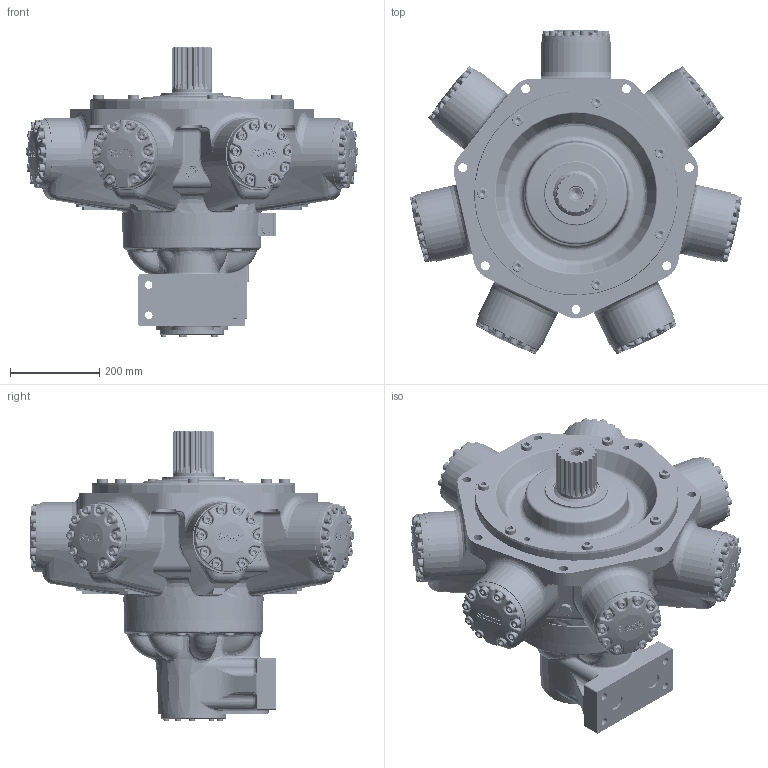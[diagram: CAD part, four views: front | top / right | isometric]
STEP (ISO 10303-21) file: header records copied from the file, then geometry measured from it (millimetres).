
FILE_DESCRIPTION(/* description */ (''),/* implementation_level */ '2;1');
FILE_NAME(/* name */ 'HMC325_Z4_SM4_CS.stp',/* time_stamp */ '2025-06-12T16:29:10+01:00',/* author */ ('ccallanga'),/* organization */ (''),/* preprocessor_version */ 'ST-DEVELOPER v20',/* originating_system */ 'Autodesk Inventor 2024',/* authorisation */ '');
FILE_SCHEMA (('AUTOMOTIVE_DESIGN { 1 0 10303 214 3 1 1 }'));
Products named in the file (1): 017753 HMC325 Web Assembly_Simplify_1
Bounding box: 744.35 x 728.18 x 648.79 mm (x, y, z)
Volume: 75865080.3 mm3; surface area: 1765726.6 mm2
Topology: 1 solids, 1 shells, 6307 faces, 15343 edges, 9081 vertices
Faces by surface type: bspline 2360, plane 1710, cylinder 1355, torus 524, cone 196, sphere 162
Full cylindrical faces by diameter (mm): 4 x1, 4.134 x4, 5 x4, 5.5 x4, 6.05 x2, 9.4 x3, 11.913 x5, 12 x3, 12.7 x5, 14.351 x2, 16.51 x1, 16.7 x1, 17 x4, 19 x1, 19.05 x70, 20 x7, 20.637 x70, 23.825 x14, 25 x5, 25.4 x14, 26.211 x1, 26.92 x2, 28.75 x1, 30.48 x1, 38 x2, 38.1 x3, 90 x1, 101.575 x1, 106.68 x1, 139.7 x1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
Entity records: 282363 total; most frequent: CARTESIAN_POINT 146323, ORIENTED_EDGE 30132, DIRECTION 21795, EDGE_CURVE 15066, VERTEX_POINT 9081, AXIS2_PLACEMENT_3D 8517, EDGE_LOOP 6649, STYLED_ITEM 6308
